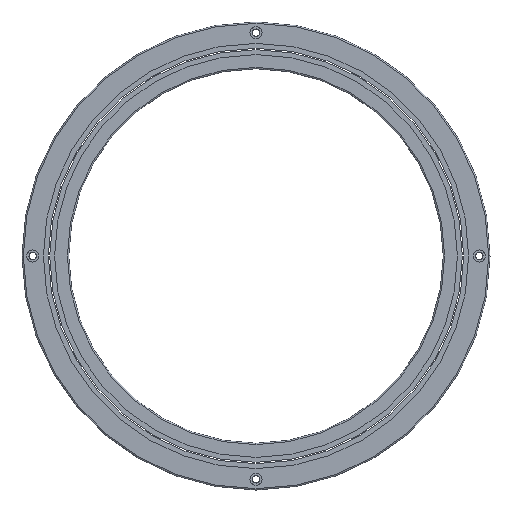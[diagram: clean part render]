
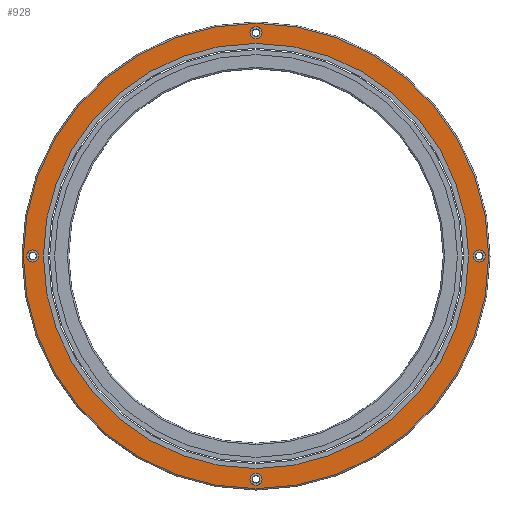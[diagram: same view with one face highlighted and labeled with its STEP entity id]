
A CAD part, front view. The second image highlights one B-rep face of the part: STEP entity #928.
In plain terms, the highlighted planar face has unit normal (0, -1, 0).
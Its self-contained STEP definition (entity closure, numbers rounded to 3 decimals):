
#43=CARTESIAN_POINT('',(0.,0.,0.));
#44=DIRECTION('',(0.,-1.,0.));
#45=DIRECTION('',(-1.,0.,0.));
#46=AXIS2_PLACEMENT_3D('',#43,#44,#45);
#48=CARTESIAN_POINT('',(0.,0.,0.));
#49=DIRECTION('',(0.,1.,0.));
#50=DIRECTION('',(-1.,0.,0.));
#51=AXIS2_PLACEMENT_3D('',#48,#49,#50);
#53=CARTESIAN_POINT('',(-83.5,0.,0.));
#54=DIRECTION('',(0.,1.,0.));
#55=DIRECTION('',(1.,0.,0.));
#56=AXIS2_PLACEMENT_3D('',#53,#54,#55);
#58=CARTESIAN_POINT('',(-83.5,0.,0.));
#59=DIRECTION('',(0.,1.,0.));
#60=DIRECTION('',(-1.,0.,0.));
#61=AXIS2_PLACEMENT_3D('',#58,#59,#60);
#63=CARTESIAN_POINT('',(0.,0.,83.5));
#64=DIRECTION('',(0.,1.,0.));
#65=DIRECTION('',(0.,0.,-1.));
#66=AXIS2_PLACEMENT_3D('',#63,#64,#65);
#68=CARTESIAN_POINT('',(0.,0.,83.5));
#69=DIRECTION('',(0.,1.,0.));
#70=DIRECTION('',(0.,0.,1.));
#71=AXIS2_PLACEMENT_3D('',#68,#69,#70);
#73=CARTESIAN_POINT('',(83.5,0.,0.));
#74=DIRECTION('',(0.,1.,0.));
#75=DIRECTION('',(-1.,0.,0.));
#76=AXIS2_PLACEMENT_3D('',#73,#74,#75);
#78=CARTESIAN_POINT('',(83.5,0.,0.));
#79=DIRECTION('',(0.,1.,0.));
#80=DIRECTION('',(1.,0.,0.));
#81=AXIS2_PLACEMENT_3D('',#78,#79,#80);
#83=CARTESIAN_POINT('',(0.,0.,-83.5));
#84=DIRECTION('',(0.,1.,0.));
#85=DIRECTION('',(0.,0.,1.));
#86=AXIS2_PLACEMENT_3D('',#83,#84,#85);
#88=CARTESIAN_POINT('',(0.,0.,-83.5));
#89=DIRECTION('',(0.,1.,0.));
#90=DIRECTION('',(0.,0.,-1.));
#91=AXIS2_PLACEMENT_3D('',#88,#89,#90);
#93=CARTESIAN_POINT('',(0.,0.,0.));
#94=DIRECTION('',(0.,1.,0.));
#95=DIRECTION('',(-1.,0.,0.));
#96=AXIS2_PLACEMENT_3D('',#93,#94,#95);
#98=CARTESIAN_POINT('',(0.,0.,0.));
#99=DIRECTION('',(0.,1.,0.));
#100=DIRECTION('',(1.,0.,0.));
#101=AXIS2_PLACEMENT_3D('',#98,#99,#100);
#751=CARTESIAN_POINT('',(-81.25,0.,0.));
#752=VERTEX_POINT('',#751);
#753=CARTESIAN_POINT('',(-85.75,0.,0.));
#754=VERTEX_POINT('',#753);
#763=CARTESIAN_POINT('',(0.,0.,81.25));
#764=VERTEX_POINT('',#763);
#765=CARTESIAN_POINT('',(0.,0.,85.75));
#766=VERTEX_POINT('',#765);
#775=CARTESIAN_POINT('',(81.25,0.,0.));
#776=VERTEX_POINT('',#775);
#777=CARTESIAN_POINT('',(85.75,0.,0.));
#778=VERTEX_POINT('',#777);
#787=CARTESIAN_POINT('',(0.,0.,-81.25));
#788=VERTEX_POINT('',#787);
#789=CARTESIAN_POINT('',(0.,0.,-85.75));
#790=VERTEX_POINT('',#789);
#808=CARTESIAN_POINT('',(-79.5,0.,0.));
#810=VERTEX_POINT('',#808);
#812=CARTESIAN_POINT('',(79.5,0.,0.));
#814=VERTEX_POINT('',#812);
#827=CARTESIAN_POINT('',(-87.,0.,0.));
#828=CARTESIAN_POINT('',(87.,0.,0.));
#829=VERTEX_POINT('',#827);
#830=VERTEX_POINT('',#828);
#889=CARTESIAN_POINT('',(0.,0.,0.));
#890=DIRECTION('',(0.,1.,0.));
#891=DIRECTION('',(1.,0.,0.));
#892=AXIS2_PLACEMENT_3D('',#889,#890,#891);
#893=PLANE('',#892);
#895=ORIENTED_EDGE('',*,*,#894,.T.);
#897=ORIENTED_EDGE('',*,*,#896,.T.);
#898=EDGE_LOOP('',(#895,#897));
#899=FACE_OUTER_BOUND('',#898,.F.);
#900=ORIENTED_EDGE('',*,*,#868,.F.);
#901=ORIENTED_EDGE('',*,*,#884,.F.);
#902=EDGE_LOOP('',(#900,#901));
#903=FACE_BOUND('',#902,.F.);
#905=ORIENTED_EDGE('',*,*,#904,.F.);
#907=ORIENTED_EDGE('',*,*,#906,.F.);
#908=EDGE_LOOP('',(#905,#907));
#909=FACE_BOUND('',#908,.F.);
#911=ORIENTED_EDGE('',*,*,#910,.F.);
#913=ORIENTED_EDGE('',*,*,#912,.F.);
#914=EDGE_LOOP('',(#911,#913));
#915=FACE_BOUND('',#914,.F.);
#917=ORIENTED_EDGE('',*,*,#916,.F.);
#919=ORIENTED_EDGE('',*,*,#918,.F.);
#920=EDGE_LOOP('',(#917,#919));
#921=FACE_BOUND('',#920,.F.);
#923=ORIENTED_EDGE('',*,*,#922,.T.);
#925=ORIENTED_EDGE('',*,*,#924,.F.);
#926=EDGE_LOOP('',(#923,#925));
#927=FACE_BOUND('',#926,.F.);
#47=CIRCLE('',#46,79.5);
#52=CIRCLE('',#51,79.5);
#57=CIRCLE('',#56,2.25);
#62=CIRCLE('',#61,2.25);
#67=CIRCLE('',#66,2.25);
#72=CIRCLE('',#71,2.25);
#77=CIRCLE('',#76,2.25);
#82=CIRCLE('',#81,2.25);
#87=CIRCLE('',#86,2.25);
#92=CIRCLE('',#91,2.25);
#97=CIRCLE('',#96,87.);
#102=CIRCLE('',#101,87.);
#868=EDGE_CURVE('',#752,#754,#57,.T.);
#884=EDGE_CURVE('',#754,#752,#62,.T.);
#894=EDGE_CURVE('',#829,#830,#97,.T.);
#896=EDGE_CURVE('',#830,#829,#102,.T.);
#904=EDGE_CURVE('',#764,#766,#67,.T.);
#906=EDGE_CURVE('',#766,#764,#72,.T.);
#910=EDGE_CURVE('',#776,#778,#77,.T.);
#912=EDGE_CURVE('',#778,#776,#82,.T.);
#916=EDGE_CURVE('',#788,#790,#87,.T.);
#918=EDGE_CURVE('',#790,#788,#92,.T.);
#922=EDGE_CURVE('',#810,#814,#47,.T.);
#924=EDGE_CURVE('',#810,#814,#52,.T.);
#928=ADVANCED_FACE('',(#899,#903,#909,#915,#921,#927),#893,.F.);
